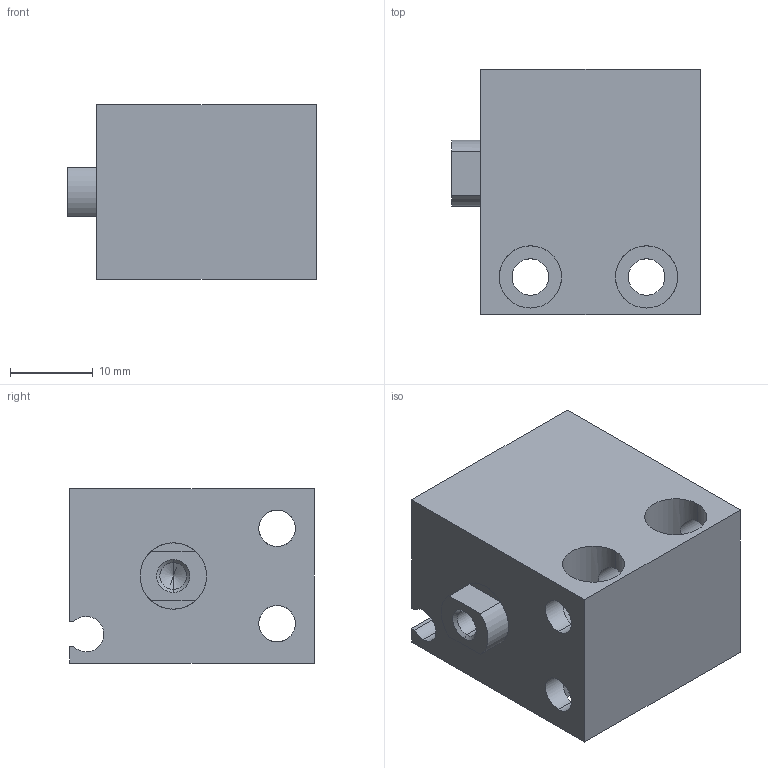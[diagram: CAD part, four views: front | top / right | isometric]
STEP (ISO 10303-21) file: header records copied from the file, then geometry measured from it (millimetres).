
FILE_DESCRIPTION (( 'STEP AP203' ), '1' );
FILE_NAME ('CLJB16-10.STEP', '2020-07-30T19:22:56', ( '' ), ( '' ), 'SwSTEP 2.0', 'SolidWorks 2019', '' );
FILE_SCHEMA (( 'CONFIG_CONTROL_DESIGN' ));
Length unit declared in the file: millimetre
Products named in the file (1): CLJB16-10
Bounding box: 30 x 29.5 x 21 mm (x, y, z)
Volume: 12752.6 mm3; surface area: 7288.3 mm2
Topology: 2 solids, 2 shells, 75 faces, 188 edges, 113 vertices
Faces by surface type: cylinder 41, plane 22, cone 12
Entity records: 3119 total; most frequent: CARTESIAN_POINT 1223, DIRECTION 394, ORIENTED_EDGE 364, EDGE_CURVE 182, AXIS2_PLACEMENT_3D 152, VERTEX_POINT 113, EDGE_LOOP 93, VECTOR 90
